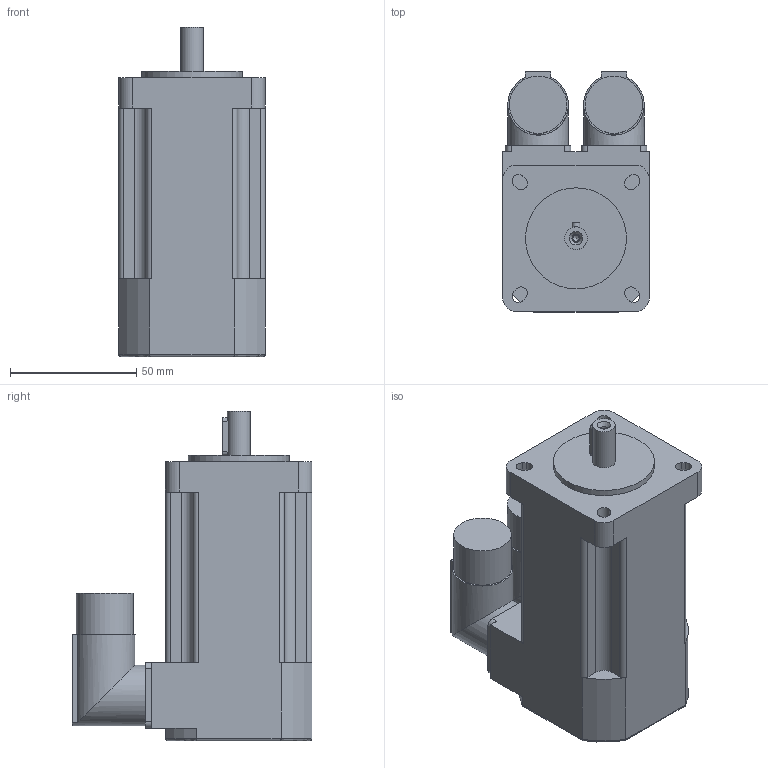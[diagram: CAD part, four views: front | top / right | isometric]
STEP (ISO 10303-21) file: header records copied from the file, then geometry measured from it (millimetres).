
FILE_DESCRIPTION(/* description */ (''),/* implementation_level */ '2;1');
FILE_NAME(/* name */ 'C:\Users\Pastrello_Ylenia\Desktop\Modelli 3D Serad\B28Q\Resolver\Resolver NoBrake\B28D7Qxx6A052000.stp',/* time_stamp */ '2015-06-10T17:09:27+02:00',/* author */ ('Pastrello_Ylenia'),/* organization */ (''),/* preprocessor_version */ 'ST-DEVELOPER v15.6',/* originating_system */ 'Autodesk Inventor 2015',/* authorisation */ '');
FILE_SCHEMA (('AUTOMOTIVE_DESIGN { 1 0 10303 214 3 1 1 }'));
Length unit declared in the file: millimetre
Products named in the file (1): B28D7Qxx6A052000
Bounding box: 58 x 95 x 130.5 mm (x, y, z)
Volume: 399132.9 mm3; surface area: 43541.2 mm2
Topology: 1 solids, 1 shells, 140 faces, 374 edges, 243 vertices
Faces by surface type: plane 72, cylinder 62, torus 4, cone 2
Full cylindrical faces by diameter (mm): 2.5 x1, 3.2 x1, 9 x1, 22.7 x2, 24 x2, 40 x1
Entity records: 4441 total; most frequent: CARTESIAN_POINT 879, DIRECTION 757, ORIENTED_EDGE 722, EDGE_CURVE 360, AXIS2_PLACEMENT_3D 268, VERTEX_POINT 240, LINE 221, VECTOR 221
